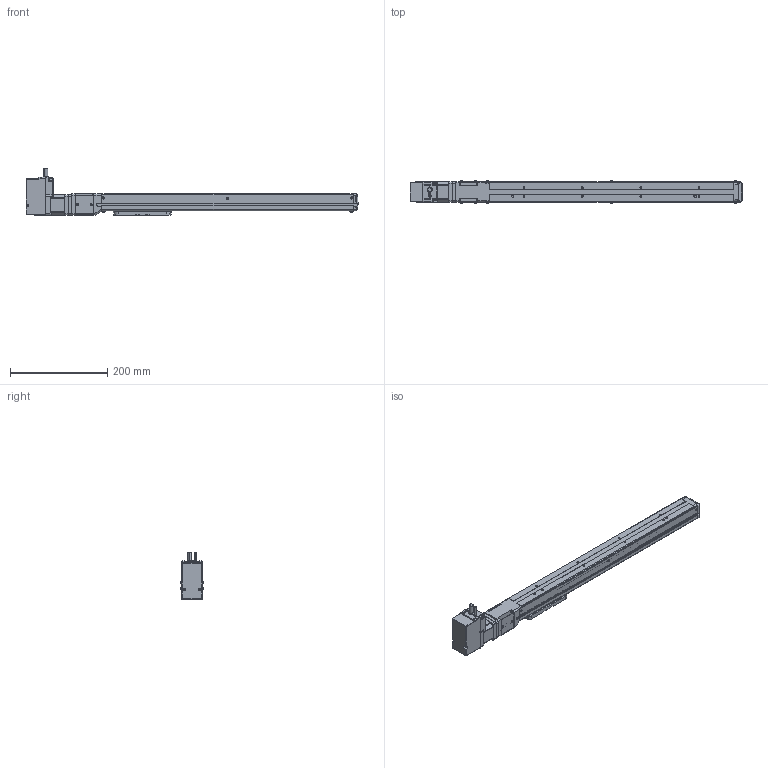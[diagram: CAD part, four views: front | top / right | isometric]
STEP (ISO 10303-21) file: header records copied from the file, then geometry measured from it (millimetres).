
FILE_DESCRIPTION(('FreeCAD Model'),'2;1');
FILE_NAME('Open CASCADE Shape Model','2023-08-01T17:28:57',('Author'),( ''),'Open CASCADE STEP processor 7.5','FreeCAD','Unknown');
FILE_SCHEMA(('AUTOMOTIVE_DESIGN { 1 0 10303 214 1 1 1 1 }'));
Length unit declared in the file: millimetre
Products named in the file (20): SCKSF4_020_350_S; Shapes; Shapes001; Shapes002; Shapes003; Shapes004; Shapes005; Shapes006; Shapes007; Shapes008; Shapes009; Shapes010; Shapes011; Shapes012; Shapes013; KSF4-10-0350-0-AR(0); KSF4---(Cover); KSF4-AR---(Motor bracket); KSF4-10-0350---(slider); KSF4-10-0350-0-AR-(03500ARNo0)---(body)
Assembly tree (19 placements, depth 3):
  SCKSF4_020_350_S
    Shapes
    Shapes001
    Shapes002
    Shapes003
    Shapes004
    Shapes005
    Shapes006
    Shapes007
    Shapes008
    Shapes009
    Shapes010
    Shapes011
    Shapes012
    Shapes013
    KSF4-10-0350-0-AR(0)
      KSF4---(Cover)
      KSF4-AR---(Motor bracket)
      KSF4-10-0350---(slider)
      KSF4-10-0350-0-AR-(03500ARNo0)---(body)
Bounding box: 682 x 45.4 x 97.64 mm (x, y, z)
Volume: 1116942.3 mm3; surface area: 218219.3 mm2
Topology: 18 solids, 18 shells, 1245 faces, 3236 edges, 2110 vertices
Faces by surface type: plane 679, cylinder 420, cone 66, torus 51, bspline 19, revolution 6, sphere 4
Full cylindrical faces by diameter (mm): 2.113 x8, 2.459 x3, 3 x6, 3.242 x4, 3.4 x12, 4 x3, 4.5 x2, 5.5 x8, 6 x1, 6.5 x14, 8 x1, 12 x1, 22 x1, 28 x1, 30 x2
Entity records: 91822 total; most frequent: CARTESIAN_POINT 26556, DIRECTION 12263, LINE 7279, VECTOR 7279, ORIENTED_EDGE 6436, PCURVE 6436, DEFINITIONAL_REPRESENTATION 6436, EDGE_CURVE 3218
